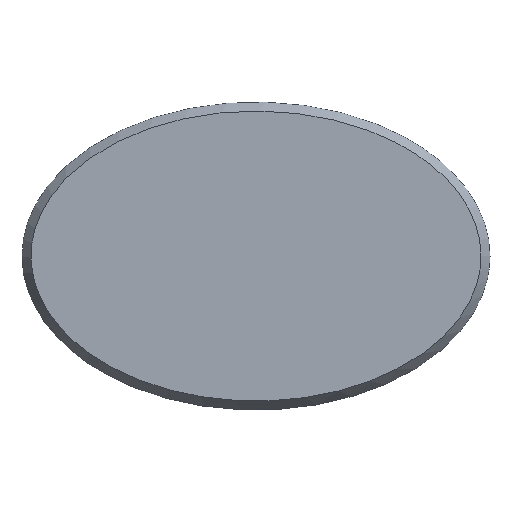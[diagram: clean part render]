
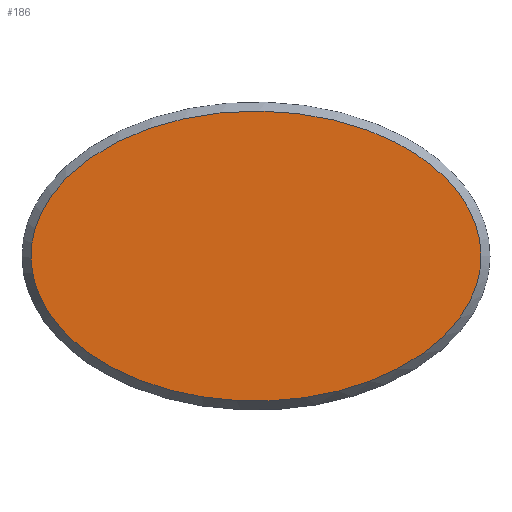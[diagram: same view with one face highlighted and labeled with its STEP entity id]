
A CAD part, top view. The second image highlights one B-rep face of the part: STEP entity #186.
In plain terms, the highlighted planar face has unit normal (0, 0, 1).
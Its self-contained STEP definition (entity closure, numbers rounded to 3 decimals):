
#49 = B_SPLINE_SURFACE_WITH_KNOTS('',14,1,(
    (#50,#51)
    ,(#52,#53)
    ,(#54,#55)
    ,(#56,#57)
    ,(#58,#59)
    ,(#60,#61)
    ,(#62,#63)
    ,(#64,#65)
    ,(#66,#67)
    ,(#68,#69)
    ,(#70,#71)
    ,(#72,#73)
    ,(#74,#75)
    ,(#76,#77)
    ,(#78,#79
    )),.UNSPECIFIED.,.T.,.F.,.F.,(15,15),(2,2),(0.,6.283),(0.,1.
    ),.PIECEWISE_BEZIER_KNOTS.);
#50 = CARTESIAN_POINT('',(46.8,0.,2.5));
#51 = CARTESIAN_POINT('',(45.,0.,5.1));
#52 = CARTESIAN_POINT('',(46.8,13.823,2.5));
#53 = CARTESIAN_POINT('',(45.,13.015,5.1));
#54 = CARTESIAN_POINT('',(36.648,27.646,2.5));
#55 = CARTESIAN_POINT('',(35.239,26.03,5.1));
#56 = CARTESIAN_POINT('',(16.345,37.971,2.5));
#57 = CARTESIAN_POINT('',(15.717,35.752,5.1));
#58 = CARTESIAN_POINT('',(-11.073,41.3,2.5));
#59 = CARTESIAN_POINT('',(-10.647,38.886,5.1
    ));
#60 = CARTESIAN_POINT('',(-39.536,35.388,2.5));
#61 = CARTESIAN_POINT('',(-38.015,33.32,5.1
    ));
#62 = CARTESIAN_POINT('',(-61.263,20.509,2.5));
#63 = CARTESIAN_POINT('',(-58.907,19.311,5.1
    ));
#64 = CARTESIAN_POINT('',(-69.443,0.,2.5));
#65 = CARTESIAN_POINT('',(-66.772,0.,
    5.1));
#66 = CARTESIAN_POINT('',(-61.263,-20.509,2.5));
#67 = CARTESIAN_POINT('',(-58.907,-19.311,5.1
    ));
#68 = CARTESIAN_POINT('',(-39.536,-35.388,2.5));
#69 = CARTESIAN_POINT('',(-38.015,-33.32,5.1
    ));
#70 = CARTESIAN_POINT('',(-11.073,-41.3,2.5));
#71 = CARTESIAN_POINT('',(-10.647,-38.886,5.1
    ));
#72 = CARTESIAN_POINT('',(16.345,-37.971,2.5));
#73 = CARTESIAN_POINT('',(15.717,-35.752,5.1)
  );
#74 = CARTESIAN_POINT('',(36.648,-27.646,2.5));
#75 = CARTESIAN_POINT('',(35.239,-26.03,5.1
    ));
#76 = CARTESIAN_POINT('',(46.8,-13.823,2.5));
#77 = CARTESIAN_POINT('',(45.,-13.015,5.1));
#78 = CARTESIAN_POINT('',(46.8,0.,2.5));
#79 = CARTESIAN_POINT('',(45.,0.,5.1));
#100 = VERTEX_POINT('',#101);
#101 = CARTESIAN_POINT('',(45.,0.,5.1));
#121 = EDGE_CURVE('',#100,#100,#122,.T.);
#122 = SURFACE_CURVE('',#123,(#128,#135),.PCURVE_S1.);
#123 = ELLIPSE('',#124,45.,29.);
#124 = AXIS2_PLACEMENT_3D('',#125,#126,#127);
#125 = CARTESIAN_POINT('',(0.,0.,5.1));
#126 = DIRECTION('',(0.,0.,1.));
#127 = DIRECTION('',(1.,0.,-0.));
#128 = PCURVE('',#49,#129);
#129 = DEFINITIONAL_REPRESENTATION('',(#130),#134);
#130 = LINE('',#131,#132);
#131 = CARTESIAN_POINT('',(0.,1.));
#132 = VECTOR('',#133,1.);
#133 = DIRECTION('',(1.,0.));
#134 = ( GEOMETRIC_REPRESENTATION_CONTEXT(2) 
PARAMETRIC_REPRESENTATION_CONTEXT() REPRESENTATION_CONTEXT('2D SPACE',''
  ) );
#135 = PCURVE('',#136,#141);
#136 = PLANE('',#137);
#137 = AXIS2_PLACEMENT_3D('',#138,#139,#140);
#138 = CARTESIAN_POINT('',(0.,0.,5.1));
#139 = DIRECTION('',(0.,0.,1.));
#140 = DIRECTION('',(1.,0.,-0.));
#141 = DEFINITIONAL_REPRESENTATION('',(#142),#146);
#142 = ELLIPSE('',#143,45.,29.);
#143 = AXIS2_PLACEMENT_2D('',#144,#145);
#144 = CARTESIAN_POINT('',(0.,0.));
#145 = DIRECTION('',(1.,0.));
#146 = ( GEOMETRIC_REPRESENTATION_CONTEXT(2) 
PARAMETRIC_REPRESENTATION_CONTEXT() REPRESENTATION_CONTEXT('2D SPACE',''
  ) );
#186 = ADVANCED_FACE('',(#187),#136,.T.);
#187 = FACE_BOUND('',#188,.T.);
#188 = EDGE_LOOP('',(#189));
#189 = ORIENTED_EDGE('',*,*,#121,.T.);
